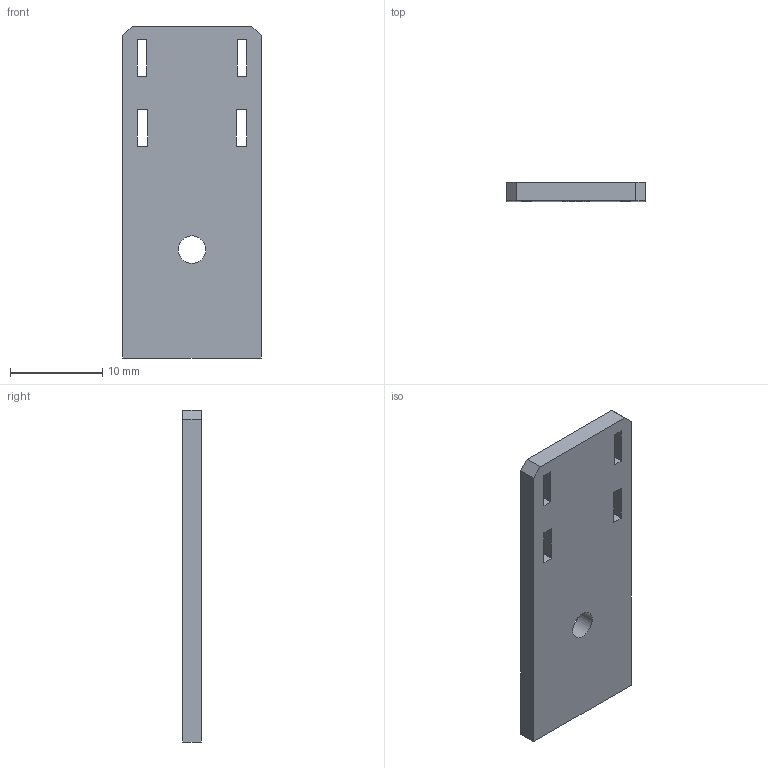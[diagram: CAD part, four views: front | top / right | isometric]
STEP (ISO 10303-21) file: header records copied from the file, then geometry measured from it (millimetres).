
FILE_DESCRIPTION(('STEP AP214'), '1');
FILE_NAME('äåðæàòåëü êàáåëÿ', '', ('UNSPECIFIED'), ('UNSPECIFIED'), 'C3D Converter', 'C3D Toolkit', '');
FILE_SCHEMA(('AUTOMOTIVE_DESIGN { 1 0 10303 214 3 1 1}'));
Length unit declared in the file: millimetre
Bounding box: 15 x 2 x 36 mm (x, y, z)
Volume: 1029.9 mm3; surface area: 1331.2 mm2
Topology: 1 solids, 1 shells, 25 faces, 69 edges, 46 vertices
Faces by surface type: plane 24, cylinder 1
Full cylindrical faces by diameter (mm): 3 x1
Entity records: 1040 total; most frequent: CARTESIAN_POINT 140, ORIENTED_EDGE 136, DIRECTION 122, EDGE_CURVE 68, LINE 66, VECTOR 66, VERTEX_POINT 46, EDGE_LOOP 36
